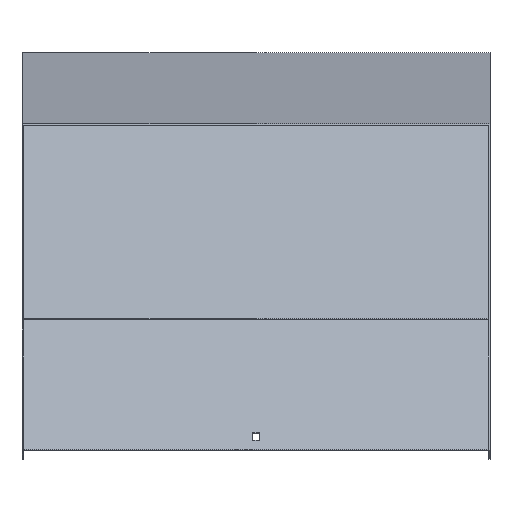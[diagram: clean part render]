
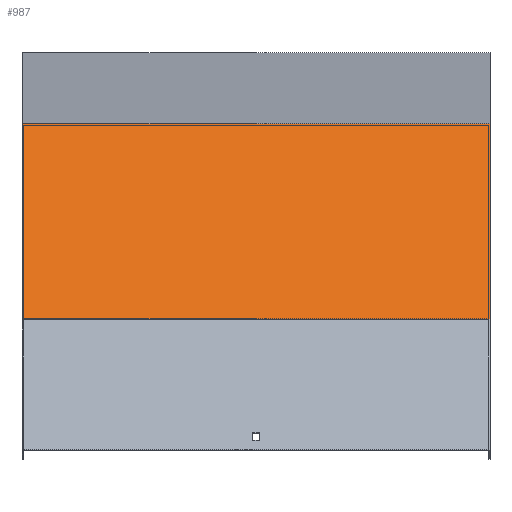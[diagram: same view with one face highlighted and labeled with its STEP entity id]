
A CAD part, top view. The second image highlights one B-rep face of the part: STEP entity #987.
In plain terms, the highlighted planar face has unit normal (0, 0.707, 0.707).
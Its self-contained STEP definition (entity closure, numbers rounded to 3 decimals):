
#9 = DIRECTION ( 'NONE',  ( -1., 0., 0. ) ) ;
#31 = EDGE_CURVE ( 'NONE', #510, #985, #496, .T. ) ;
#77 = ORIENTED_EDGE ( 'NONE', *, *, #85, .F. ) ;
#85 = EDGE_CURVE ( 'NONE', #713, #985, #905, .T. ) ;
#125 = DIRECTION ( 'NONE',  ( -1., 0., 0. ) ) ;
#132 = CARTESIAN_POINT ( 'NONE',  ( 251.5, -60.657, 453.295 ) ) ;
#193 = CARTESIAN_POINT ( 'NONE',  ( 251.5, -266.872, 659.51 ) ) ;
#198 = DIRECTION ( 'NONE',  ( 0., -0.707, -0.707 ) ) ;
#205 = EDGE_CURVE ( 'NONE', #748, #713, #460, .T. ) ;
#250 = CARTESIAN_POINT ( 'NONE',  ( 251.5, -56.867, 449.505 ) ) ;
#269 = ORIENTED_EDGE ( 'NONE', *, *, #31, .T. ) ;
#317 = CARTESIAN_POINT ( 'NONE',  ( -251.5, -56.867, 449.505 ) ) ;
#340 = VECTOR ( 'NONE', #766, 1000. ) ;
#363 = DIRECTION ( 'NONE',  ( 0., 0.707, -0.707 ) ) ;
#396 = VECTOR ( 'NONE', #9, 1000. ) ;
#442 = ORIENTED_EDGE ( 'NONE', *, *, #205, .F. ) ;
#460 = LINE ( 'NONE', #867, #340 ) ;
#496 = LINE ( 'NONE', #591, #738 ) ;
#510 = VERTEX_POINT ( 'NONE', #317 ) ;
#591 = CARTESIAN_POINT ( 'NONE',  ( -251.5, -60.657, 453.295 ) ) ;
#599 = CARTESIAN_POINT ( 'NONE',  ( -251.5, -266.872, 659.51 ) ) ;
#600 = AXIS2_PLACEMENT_3D ( 'NONE', #132, #198, #363 ) ;
#611 = EDGE_CURVE ( 'NONE', #748, #510, #915, .T. ) ;
#669 = EDGE_LOOP ( 'NONE', ( #269, #77, #442, #907 ) ) ;
#713 = VERTEX_POINT ( 'NONE', #193 ) ;
#738 = VECTOR ( 'NONE', #945, 1000. ) ;
#748 = VERTEX_POINT ( 'NONE', #250 ) ;
#766 = DIRECTION ( 'NONE',  ( 0., -0.707, 0.707 ) ) ;
#867 = CARTESIAN_POINT ( 'NONE',  ( 251.5, -60.657, 453.295 ) ) ;
#896 = CARTESIAN_POINT ( 'NONE',  ( 251.5, -266.872, 659.51 ) ) ;
#898 = PLANE ( 'NONE',  #600 ) ;
#899 = VECTOR ( 'NONE', #125, 1000. ) ;
#905 = LINE ( 'NONE', #896, #396 ) ;
#906 = FACE_OUTER_BOUND ( 'NONE', #669, .T. ) ;
#907 = ORIENTED_EDGE ( 'NONE', *, *, #611, .T. ) ;
#915 = LINE ( 'NONE', #922, #899 ) ;
#922 = CARTESIAN_POINT ( 'NONE',  ( 251.5, -56.867, 449.505 ) ) ;
#945 = DIRECTION ( 'NONE',  ( 0., -0.707, 0.707 ) ) ;
#985 = VERTEX_POINT ( 'NONE', #599 ) ;
#987 = ADVANCED_FACE ( 'NONE', ( #906 ), #898, .F. ) ;
